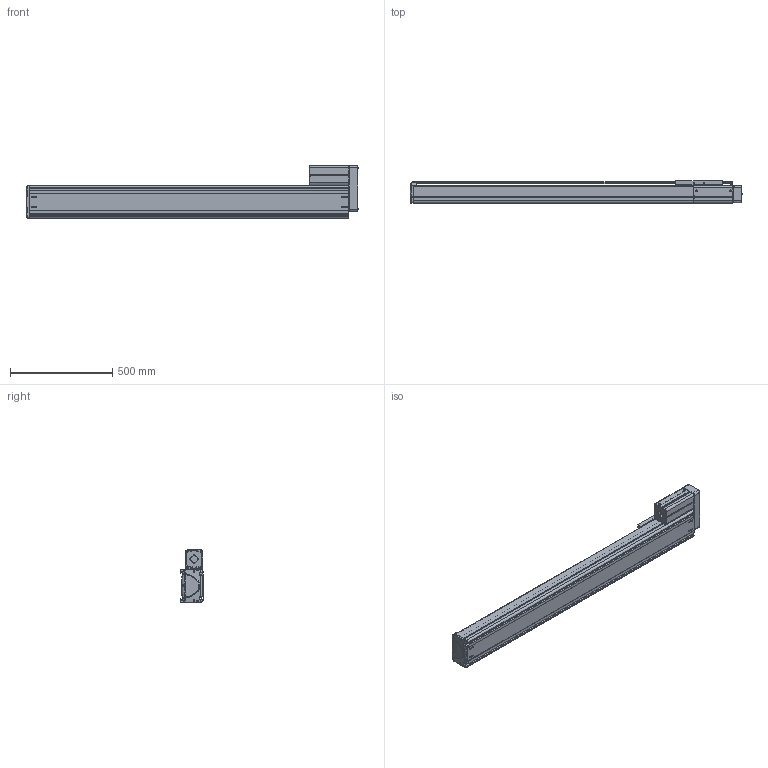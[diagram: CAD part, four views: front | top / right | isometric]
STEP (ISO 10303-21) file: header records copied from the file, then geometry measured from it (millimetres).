
FILE_DESCRIPTION((''),'2;1');
FILE_NAME('BE50F-UR-L_B-C5_IGS_PRT','2017-06-18T',(' '),(''),'PRO/ENGINEER BY PARAMETRIC TECHNOLOGY CORPORATION, 2015030','PRO/ENGINEER BY PARAMETRIC TECHNOLOGY CORPORATION, 2015030','');
FILE_SCHEMA(('CONFIG_CONTROL_DESIGN'));
Length unit declared in the file: millimetre
Products named in the file (1): BE50F-UR-L_B-C5_IGS_PRT
Bounding box: 1625.88 x 110 x 257 mm (x, y, z)
Volume: 6416507.7 mm3; surface area: 2721448.5 mm2
Topology: 7 solids, 159 shells, 2340 faces, 6442 edges, 4223 vertices
Faces by surface type: cylinder 1038, plane 1014, cone 149, torus 59, bspline 48, sphere 32
Entity records: 78292 total; most frequent: CARTESIAN_POINT 18187, DIRECTION 12503, ORIENTED_EDGE 12239, EDGE_CURVE 6396, AXIS2_PLACEMENT_3D 4482, VERTEX_POINT 4219, VECTOR 3539, LINE 3539
